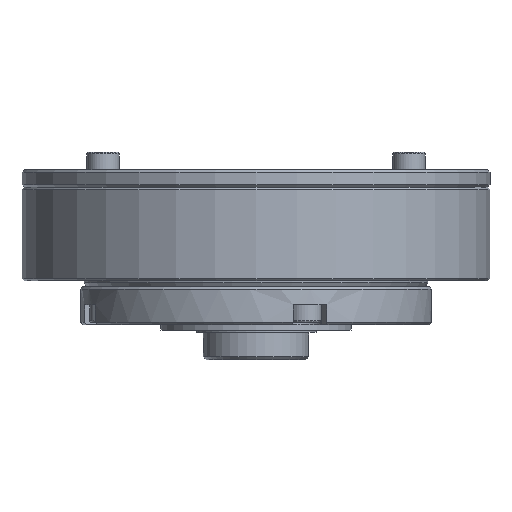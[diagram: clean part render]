
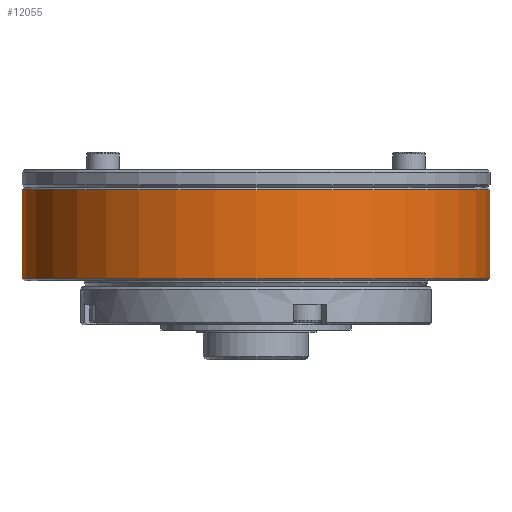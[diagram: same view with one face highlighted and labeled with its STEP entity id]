
A CAD part, front view. The second image highlights one B-rep face of the part: STEP entity #12055.
In plain terms, the highlighted cylindrical face has radius 40 mm (diameter 80 mm), a full revolution.
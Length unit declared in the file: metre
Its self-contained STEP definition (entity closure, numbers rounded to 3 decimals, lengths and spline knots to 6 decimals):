
#1226 = DIRECTION ( 'NONE',  ( 0.866, 0.5, 0. ) ) ;
#2419 = FACE_OUTER_BOUND ( 'NONE', #18191, .T. ) ;
#2477 = CARTESIAN_POINT ( 'NONE',  ( 0., 0., 0.023 ) ) ;
#2689 = CARTESIAN_POINT ( 'NONE',  ( 0., 0., 0.0078 ) ) ;
#2708 = FACE_OUTER_BOUND ( 'NONE', #3315, .T. ) ;
#2914 = ORIENTED_EDGE ( 'NONE', *, *, #19209, .T. ) ;
#3315 = EDGE_LOOP ( 'NONE', ( #9494 ) ) ;
#3851 = CIRCLE ( 'NONE', #4159, 0.04 ) ;
#4159 = AXIS2_PLACEMENT_3D ( 'NONE', #2477, #9936, #5280 ) ;
#4164 = EDGE_CURVE ( 'NONE', #6804, #6804, #3851, .T. ) ;
#5280 = DIRECTION ( 'NONE',  ( 0.866, 0.5, 0. ) ) ;
#5418 = VERTEX_POINT ( 'NONE', #14643 ) ;
#6037 = CIRCLE ( 'NONE', #15214, 0.04 ) ;
#6804 = VERTEX_POINT ( 'NONE', #8573 ) ;
#7154 = DIRECTION ( 'NONE',  ( 0., 0., 1. ) ) ;
#8573 = CARTESIAN_POINT ( 'NONE',  ( 0.034641, 0.02, 0.023 ) ) ;
#9494 = ORIENTED_EDGE ( 'NONE', *, *, #4164, .T. ) ;
#9936 = DIRECTION ( 'NONE',  ( 0., 0., -1. ) ) ;
#10988 = AXIS2_PLACEMENT_3D ( 'NONE', #14526, #17854, #1226 ) ;
#11833 = CYLINDRICAL_SURFACE ( 'NONE', #10988, 0.04 ) ;
#12055 = ADVANCED_FACE ( 'NONE', ( #2419, #2708 ), #11833, .T. ) ;
#13199 = DIRECTION ( 'NONE',  ( 0.866, 0.5, 0. ) ) ;
#14526 = CARTESIAN_POINT ( 'NONE',  ( 0., 0., 0.0234 ) ) ;
#14643 = CARTESIAN_POINT ( 'NONE',  ( 0.034641, 0.02, 0.0078 ) ) ;
#15214 = AXIS2_PLACEMENT_3D ( 'NONE', #2689, #7154, #13199 ) ;
#17854 = DIRECTION ( 'NONE',  ( 0., 0., 1. ) ) ;
#18191 = EDGE_LOOP ( 'NONE', ( #2914 ) ) ;
#19209 = EDGE_CURVE ( 'NONE', #5418, #5418, #6037, .T. ) ;
